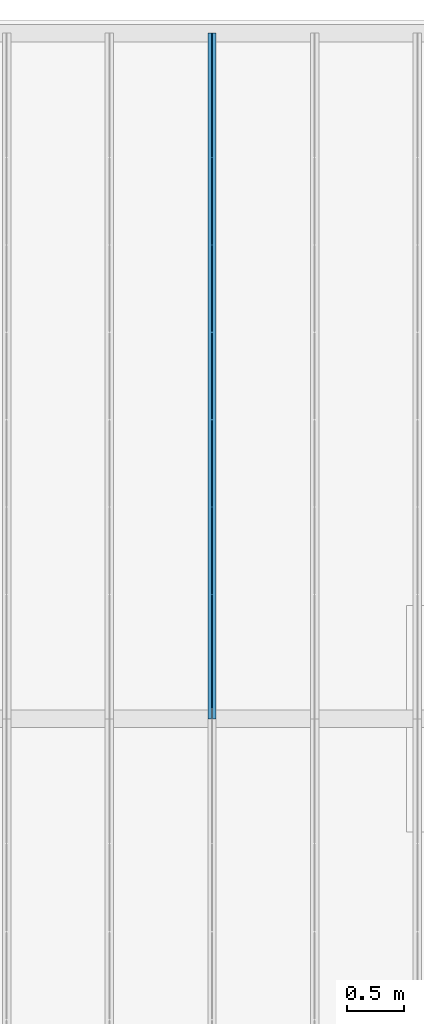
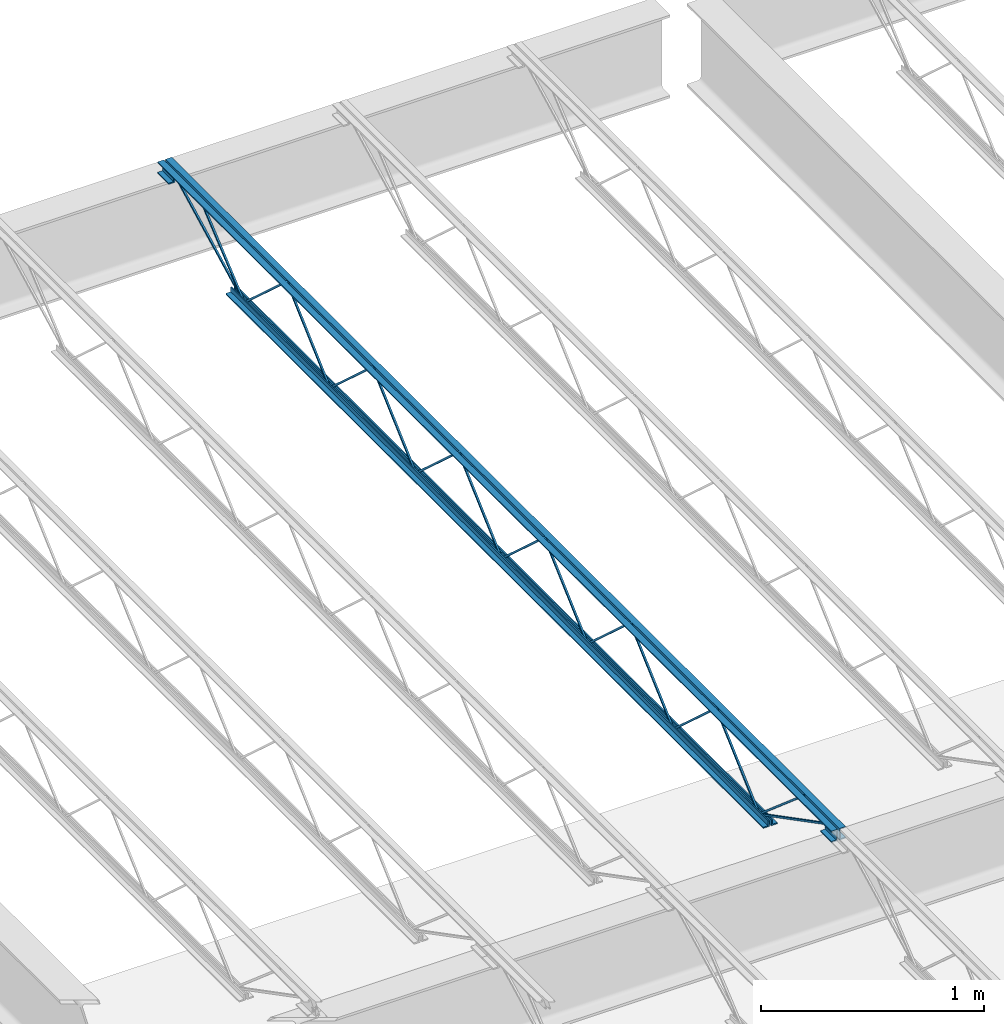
# One storey, part 43 of 75: 1 beam.
"""IFC2X3 building model written with IfcOpenShell, lengths in metres."""

from ifc_helpers import new_model, entity, si_unit, converted_unit, frame, origin, place, context, project, spatial, face_set, surface_model, element, save


model = new_model("IFC2X3")

# Units and contexts
model_context = context("Model", 3, precision=1e-09, world=origin())
plan_context = context("Plan", 3, precision=1e-09, world=origin())
ifc_project = project(units=[si_unit("LENGTHUNIT", "METRE"), si_unit("AREAUNIT", "SQUARE_METRE"), si_unit("VOLUMEUNIT", "CUBIC_METRE"), converted_unit("PLANEANGLEUNIT", "DEGREE", entity("IfcRatioMeasure", 0.01745329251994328), si_unit("PLANEANGLEUNIT", "RADIAN"), dimensions=[0, 0, 0, 0, 0, 0, 0]), si_unit("TIMEUNIT", "SECOND")], contexts=[model_context, plan_context])

# Site, building, storey
site_placement = place(None, origin())
site = spatial("IfcSite", under=ifc_project, at=site_placement, Name="Default", CompositionType="ELEMENT")
building_placement = place(site_placement, origin())
building = spatial("IfcBuilding", under=site, at=building_placement, CompositionType="ELEMENT")
storey_placement = place(building_placement, origin())
storey = spatial("IfcBuildingStorey", under=building, at=storey_placement, Name="First Floor", CompositionType="ELEMENT", Elevation=-3.531500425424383e-13)

# Beam
beam_placement = place(storey_placement, frame((-43.41389285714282, 50.09000000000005, 4.112000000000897), z_axis=(0.0, 0.0, 1.0), x_axis=(-1.0, 0.0, 0.0)))
element("IfcBeam", 1, at=beam_placement, inside=storey, Name="M_K-Series Bar Joist-Rod Web:14K1:14K1", ObjectType="M_K-Series Bar Joist-Rod Web:14K1", context=model_context, shape_type="SurfaceModel", body=[
    surface_model("IfcFaceBasedSurfaceModel", [(-0.03199999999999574, -2.254000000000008, 0.01110000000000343), (-0.04150000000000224, -2.254000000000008, 0.01110000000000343), (-0.04150000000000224, -2.254000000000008, 0.001600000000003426), (-0.03199999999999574, -2.254000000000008, 0.001600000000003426), (-0.04149999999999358, -2.252655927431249, 0.01110000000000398), (-0.03199999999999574, -2.252655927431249, 0.01110000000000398), (-0.04150000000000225, -2.248994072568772, 0.001600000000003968), (-0.04150000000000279, -1.869844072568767, 0.3449000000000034), (-0.0415000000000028, -1.86715592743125, 0.3449000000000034), (-0.04150000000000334, -1.48800592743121, 0.001600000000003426), (-0.04150000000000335, -1.483000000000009, 0.001600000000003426), (-0.04150000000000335, -1.483000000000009, 0.01110000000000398), (-0.04150000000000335, -1.484344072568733, 0.01110000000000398), (-0.04150000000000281, -1.863494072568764, 0.3544000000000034), (-0.04150000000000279, -1.873505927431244, 0.3544000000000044), (-0.03200000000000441, -2.248994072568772, 0.001600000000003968), (-0.03199999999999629, -1.869844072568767, 0.3449000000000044), (-0.0319999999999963, -1.86715592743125, 0.3449000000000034), (-0.03199999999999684, -1.48800592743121, 0.001600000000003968), (-0.03199999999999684, -1.483000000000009, 0.001600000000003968), (-0.03199999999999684, -1.483000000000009, 0.01110000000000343), (-0.03199999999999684, -1.484344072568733, 0.01110000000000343), (-0.0319999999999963, -1.863494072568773, 0.3544000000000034), (-0.03199999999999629, -1.873505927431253, 0.3544000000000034), (-0.03199999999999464, -3.025000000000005, 0.01110000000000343), (-0.04150000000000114, -3.025000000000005, 0.01110000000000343), (-0.04150000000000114, -3.025000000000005, 0.001600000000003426), (-0.03199999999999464, -3.025000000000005, 0.001600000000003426), (-0.04149999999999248, -3.023655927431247, 0.01110000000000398), (-0.03199999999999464, -3.023655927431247, 0.01110000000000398), (-0.04150000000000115, -3.01999407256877, 0.001600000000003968), (-0.04150000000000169, -2.640844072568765, 0.3449000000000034), (-0.04150000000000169, -2.638155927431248, 0.3449000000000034), (-0.04150000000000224, -2.259005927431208, 0.001600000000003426), (-0.04150000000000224, -2.254000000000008, 0.01110000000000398), (-0.04150000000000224, -2.255344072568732, 0.01110000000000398), (-0.0415000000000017, -2.634494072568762, 0.3544000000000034), (-0.04150000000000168, -2.644505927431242, 0.3544000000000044), (-0.03200000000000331, -3.01999407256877, 0.001600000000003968), (-0.03199999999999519, -2.640844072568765, 0.3449000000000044), (-0.03199999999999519, -2.638155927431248, 0.3449000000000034), (-0.03199999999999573, -2.259005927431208, 0.001600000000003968), (-0.03199999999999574, -2.254000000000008, 0.001600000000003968), (-0.03199999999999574, -2.255344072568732, 0.01110000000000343), (-0.0319999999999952, -2.634494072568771, 0.3544000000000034), (-0.03199999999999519, -2.644505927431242, 0.3544000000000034), (-0.03199999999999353, -3.796000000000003, 0.01110000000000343), (-0.04150000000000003, -3.796000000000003, 0.01110000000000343), (-0.04150000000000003, -3.796000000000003, 0.001600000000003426), (-0.03199999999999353, -3.796000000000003, 0.001600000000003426), (-0.04149999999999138, -3.794655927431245, 0.01110000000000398), (-0.03199999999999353, -3.794655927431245, 0.01110000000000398), (-0.04150000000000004, -3.790994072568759, 0.001600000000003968), (-0.04150000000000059, -3.411844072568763, 0.3449000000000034), (-0.04150000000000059, -3.409155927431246, 0.3449000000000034), (-0.04150000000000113, -3.030005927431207, 0.001600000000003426), (-0.04150000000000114, -3.025000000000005, 0.01110000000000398), (-0.04150000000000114, -3.026344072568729, 0.01110000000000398), (-0.0415000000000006, -3.40549407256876, 0.3544000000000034), (-0.04150000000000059, -3.41550592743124, 0.3544000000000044), (-0.03200000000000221, -3.790994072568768, 0.001600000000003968), (-0.03199999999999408, -3.411844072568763, 0.3449000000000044), (-0.03199999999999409, -3.409155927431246, 0.3449000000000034), (-0.03199999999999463, -3.030005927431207, 0.001600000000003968), (-0.03199999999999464, -3.025000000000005, 0.001600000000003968), (-0.03199999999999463, -3.026344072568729, 0.01110000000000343), (-0.03199999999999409, -3.40549407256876, 0.3544000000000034), (-0.03199999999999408, -3.41550592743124, 0.3544000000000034), (-0.03199999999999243, -4.567000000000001, 0.01110000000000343), (-0.04149999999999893, -4.567000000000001, 0.01110000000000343), (-0.04149999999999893, -4.567000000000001, 0.001600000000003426), (-0.03199999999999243, -4.567000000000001, 0.001600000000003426), (-0.04149999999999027, -4.565655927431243, 0.01110000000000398), (-0.03199999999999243, -4.565655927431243, 0.01110000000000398), (-0.04149999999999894, -4.561994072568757, 0.001600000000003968), (-0.04149999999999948, -4.182844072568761, 0.3449000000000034), (-0.04149999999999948, -4.180155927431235, 0.3449000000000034), (-0.04150000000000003, -3.801005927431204, 0.001600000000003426), (-0.04150000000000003, -3.795999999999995, 0.001600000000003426), (-0.04150000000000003, -3.796000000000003, 0.01110000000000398), (-0.04150000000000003, -3.797344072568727, 0.01110000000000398), (-0.04149999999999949, -4.176494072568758, 0.3544000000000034), (-0.04149999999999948, -4.186505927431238, 0.3544000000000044), (-0.0320000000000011, -4.561994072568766, 0.001600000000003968), (-0.03199999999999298, -4.182844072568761, 0.3449000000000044), (-0.03199999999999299, -4.180155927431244, 0.3449000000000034), (-0.03199999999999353, -3.801005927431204, 0.001600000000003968), (-0.03199999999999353, -3.796000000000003, 0.001600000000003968), (-0.03199999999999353, -3.795999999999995, 0.01110000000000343), (-0.03199999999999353, -3.797344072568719, 0.01110000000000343), (-0.03199999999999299, -4.176494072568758, 0.3544000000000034), (-0.03199999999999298, -4.186505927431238, 0.3544000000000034), (-0.03199999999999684, -1.483000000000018, 0.01109999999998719), (-0.04150000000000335, -1.483000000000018, 0.01109999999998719), (-0.04150000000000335, -1.483000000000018, 0.001599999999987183), (-0.03199999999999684, -1.483000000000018, 0.001599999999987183), (-0.04150000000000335, -1.48165592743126, 0.01109999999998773), (-0.03200000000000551, -1.48165592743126, 0.01109999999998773), (-0.04150000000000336, -1.477994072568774, 0.001599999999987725), (-0.0415000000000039, -1.098844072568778, 0.3448999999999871), (-0.0415000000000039, -1.096155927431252, 0.3448999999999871), (-0.04150000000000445, -0.717005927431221, 0.001599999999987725), (-0.04150000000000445, -0.7120000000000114, 0.001599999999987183), (-0.04150000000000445, -0.7120000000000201, 0.01109999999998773), (-0.04150000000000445, -0.713344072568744, 0.01109999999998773), (-0.04150000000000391, -1.092494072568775, 0.3543999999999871), (-0.04150000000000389, -1.102505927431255, 0.3543999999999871), (-0.03200000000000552, -1.477994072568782, 0.001599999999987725), (-0.03200000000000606, -1.098844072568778, 0.3448999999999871), (-0.03200000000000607, -1.09615592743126, 0.3448999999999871), (-0.03200000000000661, -0.717005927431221, 0.001599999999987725), (-0.03200000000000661, -0.7120000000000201, 0.001599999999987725), (-0.03199999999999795, -0.7120000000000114, 0.01109999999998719), (-0.03200000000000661, -0.7133440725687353, 0.01109999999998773), (-0.03200000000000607, -1.092494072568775, 0.3543999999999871), (-0.03200000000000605, -1.102505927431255, 0.3543999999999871), (-0.03199999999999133, -5.33799999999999, 0.01110000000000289), (-0.04149999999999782, -5.33799999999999, 0.01110000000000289), (-0.04149999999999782, -5.33799999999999, 0.001600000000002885), (-0.03199999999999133, -5.33799999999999, 0.001600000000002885), (-0.04149999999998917, -5.336655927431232, 0.01110000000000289), (-0.03199999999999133, -5.336655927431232, 0.01110000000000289), (-0.04149999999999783, -5.332994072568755, 0.001600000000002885), (-0.04149999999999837, -4.95384407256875, 0.3449000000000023), (-0.04149999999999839, -4.951155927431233, 0.3449000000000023), (-0.04149999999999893, -4.572005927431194, 0.001600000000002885), (-0.04149999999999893, -4.566999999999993, 0.001600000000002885), (-0.04149999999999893, -4.566999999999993, 0.01110000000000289), (-0.04149999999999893, -4.568344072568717, 0.01110000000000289), (-0.04149999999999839, -4.947494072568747, 0.3544000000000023), (-0.04149999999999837, -4.957505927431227, 0.3544000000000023), (-0.03199999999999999, -5.332994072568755, 0.001600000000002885), (-0.03199999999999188, -4.95384407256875, 0.3449000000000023), (-0.03199999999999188, -4.951155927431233, 0.3449000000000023), (-0.03199999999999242, -4.572005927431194, 0.001600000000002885), (-0.03199999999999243, -4.566999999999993, 0.001600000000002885), (-0.03199999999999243, -4.566999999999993, 0.01110000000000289), (-0.03199999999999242, -4.568344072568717, 0.01110000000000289), (-0.03199999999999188, -4.947494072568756, 0.3544000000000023), (-0.03199999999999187, -4.957505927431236, 0.3544000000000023), (-0.04150000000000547, 0.0, 0.3559999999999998), (-0.07350000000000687, 0.0, 0.3559999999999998), (-0.07350000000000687, 0.0, 0.349499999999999), (-0.048000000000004, 0.0, 0.349499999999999), (-0.048000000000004, 0.0, 0.3239999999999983), (-0.04150000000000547, 0.0, 0.3239999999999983), (-0.03200000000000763, 0.0, 0.3559999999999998), (-0.03200000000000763, 0.0, 0.3239999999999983), (-0.02550000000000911, 0.0, 0.3239999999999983), (-0.02550000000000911, 0.0, 0.349499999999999), (0.0, 0.0, 0.349499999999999), (0.0, 0.0, 0.3559999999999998), (-0.04149999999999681, -6.049999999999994, 0.3559999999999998), (-0.07349999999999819, -6.049999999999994, 0.3559999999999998), (-0.07349999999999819, -6.049999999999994, 0.349499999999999), (-0.04799999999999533, -6.049999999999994, 0.349499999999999), (-0.04799999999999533, -6.049999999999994, 0.3239999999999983), (-0.04149999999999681, -6.049999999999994, 0.3239999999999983), (-0.03199999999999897, -6.049999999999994, 0.3559999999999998), (-0.03199999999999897, -6.049999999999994, 0.3239999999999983), (-0.02550000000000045, -6.049999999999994, 0.3239999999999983), (-0.02550000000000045, -6.049999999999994, 0.349499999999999), (0.0, -6.049999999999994, 0.349499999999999), (0.0, -6.049999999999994, 0.3559999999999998), (-0.03199999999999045, -5.950000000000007, 0.2924999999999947), (0.0, -5.950000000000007, 0.2924999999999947), (0.0, -5.950000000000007, 0.2989999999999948), (-0.02549999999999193, -5.950000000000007, 0.2989999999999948), (-0.02549999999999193, -5.950000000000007, 0.3239999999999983), (-0.03199999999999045, -5.950000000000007, 0.3239999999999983), (-0.07349999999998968, -5.950000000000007, 0.2924999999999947), (-0.04149999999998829, -5.950000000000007, 0.2924999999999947), (-0.04149999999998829, -5.950000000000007, 0.3239999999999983), (-0.04799999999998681, -5.950000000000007, 0.3239999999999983), (-0.04799999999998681, -5.950000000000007, 0.2989999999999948), (-0.07349999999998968, -5.950000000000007, 0.2989999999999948), (-0.03199999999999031, -6.049999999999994, 0.2924999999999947), (0.0, -6.049999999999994, 0.2924999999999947), (0.0, -6.049999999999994, 0.2989999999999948), (-0.02549999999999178, -6.049999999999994, 0.2989999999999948), (-0.02549999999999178, -6.049999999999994, 0.3239999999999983), (-0.03199999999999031, -6.049999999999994, 0.3239999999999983), (-0.07349999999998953, -6.049999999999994, 0.2924999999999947), (-0.04149999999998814, -6.049999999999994, 0.2924999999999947), (-0.04149999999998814, -6.049999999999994, 0.3239999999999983), (-0.04799999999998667, -6.049999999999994, 0.3239999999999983), (-0.04799999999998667, -6.049999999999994, 0.2989999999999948), (-0.07349999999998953, -6.049999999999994, 0.2989999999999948), (-0.04149999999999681, 0.0, 0.2924999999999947), (-0.04149999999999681, 0.0, 0.3239999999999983), (-0.04799999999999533, 0.0, 0.3239999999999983), (-0.04799999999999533, 0.0, 0.2989999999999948), (-0.07349999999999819, 0.0, 0.2989999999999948), (-0.07349999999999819, 0.0, 0.2924999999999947), (-0.03199999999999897, 0.0, 0.2924999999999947), (0.0, 0.0, 0.2924999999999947), (0.0, 0.0, 0.2989999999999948), (-0.02550000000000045, 0.0, 0.2989999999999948), (-0.02550000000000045, 0.0, 0.3239999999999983), (-0.03199999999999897, 0.0, 0.3239999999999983), (-0.04149999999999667, -0.0999999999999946, 0.2924999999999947), (-0.04149999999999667, -0.0999999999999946, 0.3239999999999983), (-0.04799999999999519, -0.0999999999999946, 0.3239999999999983), (-0.04799999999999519, -0.0999999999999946, 0.2989999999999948), (-0.07349999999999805, -0.0999999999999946, 0.2989999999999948), (-0.07349999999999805, -0.0999999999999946, 0.2924999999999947), (-0.03199999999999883, -0.0999999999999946, 0.2924999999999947), (0.0, -0.0999999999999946, 0.2924999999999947), (0.0, -0.0999999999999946, 0.2989999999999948), (-0.0255000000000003, -0.0999999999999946, 0.2989999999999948), (-0.0255000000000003, -0.0999999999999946, 0.3239999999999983), (-0.03199999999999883, -0.0999999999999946, 0.3239999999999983), (-0.0415000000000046, -0.6119999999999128, 0.0), (-0.0415000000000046, -0.6119999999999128, 0.03199999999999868), (-0.04800000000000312, -0.6119999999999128, 0.03199999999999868), (-0.04800000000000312, -0.6119999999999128, 0.006499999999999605), (-0.07350000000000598, -0.6119999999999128, 0.006499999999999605), (-0.07350000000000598, -0.6119999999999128, 0.0), (-0.03200000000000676, -0.6119999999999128, 0.0), (0.0, -0.6119999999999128, 0.0), (0.0, -0.6119999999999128, 0.006499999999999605), (-0.02550000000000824, -0.6119999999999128, 0.006499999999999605), (-0.02550000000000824, -0.6119999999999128, 0.03199999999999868), (-0.03200000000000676, -0.6119999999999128, 0.03199999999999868), (-0.04149999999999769, -5.437999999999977, 0.0), (-0.04149999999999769, -5.437999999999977, 0.03199999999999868), (-0.04799999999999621, -5.437999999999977, 0.03199999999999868), (-0.04799999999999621, -5.437999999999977, 0.006499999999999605), (-0.07349999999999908, -5.437999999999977, 0.006499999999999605), (-0.07349999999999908, -5.437999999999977, 0.0), (-0.03199999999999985, -5.437999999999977, 0.0), (0.0, -5.437999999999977, 0.0), (0.0, -5.437999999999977, 0.006499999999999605), (-0.02550000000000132, -5.437999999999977, 0.006499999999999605), (-0.02550000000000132, -5.437999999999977, 0.03199999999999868), (-0.03199999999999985, -5.437999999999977, 0.03199999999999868), (-0.03199999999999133, -5.335811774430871, 0.01056594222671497), (-0.04149999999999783, -5.335811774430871, 0.01056594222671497), (-0.04149999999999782, -5.34018822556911, 0.002134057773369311), (-0.03199999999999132, -5.34018822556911, 0.002134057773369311), (-0.03199999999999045, -5.948840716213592, 0.3287499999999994), (-0.03199999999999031, -6.049999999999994, 0.3287499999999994), (-0.03199999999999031, -6.049999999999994, 0.3192499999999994), (-0.03199999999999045, -5.951159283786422, 0.3192499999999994), (-0.04149999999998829, -5.951159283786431, 0.3192499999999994), (-0.04149999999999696, -5.948840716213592, 0.3287499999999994), (-0.04149999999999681, -6.049999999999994, 0.3287499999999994), (-0.04149999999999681, -6.049999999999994, 0.3192499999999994), (-0.03199999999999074, -5.743457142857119, 0.341700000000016), (-0.04149999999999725, -5.743457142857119, 0.341700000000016), (-0.04149999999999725, -5.743457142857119, 0.332200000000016), (-0.03199999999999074, -5.743457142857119, 0.332200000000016), (-0.0414999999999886, -5.729024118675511, 0.341700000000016), (-0.03199999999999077, -5.729024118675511, 0.341700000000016), (-0.04149999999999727, -5.732490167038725, 0.332200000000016), (-0.04149999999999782, -5.341058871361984, 0.002716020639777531), (-0.04149999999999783, -5.334941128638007, 0.009983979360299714), (-0.03199999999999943, -5.732490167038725, 0.332200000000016), (-0.03199999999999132, -5.341058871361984, 0.002716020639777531), (-0.03199999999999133, -5.334941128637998, 0.009983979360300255), (-0.03199999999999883, -0.09781177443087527, 0.3197840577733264), (-0.03199999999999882, -0.1021882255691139, 0.3282159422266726), (-0.04150000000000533, -0.1021882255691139, 0.3282159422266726), (-0.04150000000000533, -0.09781177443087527, 0.3197840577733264), (-0.03199999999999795, -0.7098117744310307, 0.002134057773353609), (-0.03199999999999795, -0.7141882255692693, 0.01056594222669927), (-0.04150000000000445, -0.7141882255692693, 0.01056594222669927), (-0.04150000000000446, -0.7098117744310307, 0.002134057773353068), (-0.03199999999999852, -0.3088922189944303, 0.3460454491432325), (-0.03199999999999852, -0.3150792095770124, 0.3532545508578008), (-0.04150000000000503, -0.3150792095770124, 0.3532545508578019), (-0.04150000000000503, -0.3088922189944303, 0.3460454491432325), (-0.03199999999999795, -0.7089065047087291, 0.002745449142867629), (-0.03199999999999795, -0.715093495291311, 0.009954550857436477), (-0.04150000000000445, -0.715093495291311, 0.009954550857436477), (-0.04150000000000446, -0.7089065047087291, 0.002745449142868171)], [face_set([[[0, 1, 2, 3]], [[1, 4, 5, 0]], [[2, 6, 7, 8, 9, 10, 11, 12, 13, 14, 4, 1]], [[3, 2, 6, 15]], [[0, 3, 15, 16, 17, 18, 19, 20, 21, 22, 23, 5]], [[4, 5, 23, 14]], [[15, 16, 7, 6]], [[14, 13, 22, 23]], [[16, 7, 8, 17]], [[13, 12, 21, 22]], [[17, 8, 9, 18]], [[20, 11, 10, 19]], [[12, 11, 20, 21]], [[18, 9, 10, 19]]]), face_set([[[24, 25, 26, 27]], [[25, 28, 29, 24]], [[26, 30, 31, 32, 33, 2, 34, 35, 36, 37, 28, 25]], [[27, 26, 30, 38]], [[24, 27, 38, 39, 40, 41, 42, 0, 43, 44, 45, 29]], [[28, 29, 45, 37]], [[38, 39, 31, 30]], [[37, 36, 44, 45]], [[39, 31, 32, 40]], [[36, 35, 43, 44]], [[40, 32, 33, 41]], [[0, 34, 2, 42]], [[35, 34, 0, 43]], [[41, 33, 2, 42]]]), face_set([[[46, 47, 48, 49]], [[47, 50, 51, 46]], [[48, 52, 53, 54, 55, 26, 56, 57, 58, 59, 50, 47]], [[49, 48, 52, 60]], [[46, 49, 60, 61, 62, 63, 64, 24, 65, 66, 67, 51]], [[50, 51, 67, 59]], [[60, 61, 53, 52]], [[59, 58, 66, 67]], [[61, 53, 54, 62]], [[58, 57, 65, 66]], [[62, 54, 55, 63]], [[24, 56, 26, 64]], [[57, 56, 24, 65]], [[63, 55, 26, 64]]]), face_set([[[68, 69, 70, 71]], [[69, 72, 73, 68]], [[70, 74, 75, 76, 77, 78, 79, 80, 81, 82, 72, 69]], [[71, 70, 74, 83]], [[68, 71, 83, 84, 85, 86, 87, 88, 89, 90, 91, 73]], [[72, 73, 91, 82]], [[83, 84, 75, 74]], [[82, 81, 90, 91]], [[84, 75, 76, 85]], [[81, 80, 89, 90]], [[85, 76, 77, 86]], [[88, 79, 78, 87]], [[80, 79, 88, 89]], [[86, 77, 78, 87]]]), face_set([[[92, 93, 94, 95]], [[93, 96, 97, 92]], [[94, 98, 99, 100, 101, 102, 103, 104, 105, 106, 96, 93]], [[95, 94, 98, 107]], [[92, 95, 107, 108, 109, 110, 111, 112, 113, 114, 115, 97]], [[96, 97, 115, 106]], [[107, 108, 99, 98]], [[106, 105, 114, 115]], [[108, 99, 100, 109]], [[105, 104, 113, 114]], [[109, 100, 101, 110]], [[112, 103, 102, 111]], [[104, 103, 112, 113]], [[110, 101, 102, 111]]]), face_set([[[116, 117, 118, 119]], [[117, 120, 121, 116]], [[118, 122, 123, 124, 125, 126, 127, 128, 129, 130, 120, 117]], [[119, 118, 122, 131]], [[116, 119, 131, 132, 133, 134, 135, 136, 137, 138, 139, 121]], [[120, 121, 139, 130]], [[131, 132, 123, 122]], [[130, 129, 138, 139]], [[132, 123, 124, 133]], [[129, 128, 137, 138]], [[133, 124, 125, 134]], [[136, 127, 126, 135]], [[128, 127, 136, 137]], [[134, 125, 126, 135]]]), face_set([[[140, 141, 142, 143, 144, 145]], [[146, 147, 148, 149, 150, 151]], [[152, 153, 154, 155, 156, 157]], [[158, 159, 160, 161, 162, 163]], [[145, 140, 152, 157]], [[144, 145, 157, 156]], [[143, 155, 156, 144]], [[142, 143, 155, 154]], [[141, 153, 154, 142]], [[140, 152, 153, 141]], [[151, 163, 158, 146]], [[150, 151, 163, 162]], [[149, 150, 162, 161]], [[148, 149, 161, 160]], [[147, 148, 160, 159]], [[146, 158, 159, 147]]]), face_set([[[164, 165, 166, 167, 168, 169]], [[170, 171, 172, 173, 174, 175]], [[176, 177, 178, 179, 180, 181]], [[182, 183, 184, 185, 186, 187]], [[169, 181, 176, 164]], [[168, 180, 181, 169]], [[167, 168, 180, 179]], [[166, 178, 179, 167]], [[165, 166, 178, 177]], [[164, 165, 177, 176]], [[175, 187, 182, 170]], [[174, 186, 187, 175]], [[173, 185, 186, 174]], [[172, 184, 185, 173]], [[171, 172, 184, 183]], [[170, 171, 183, 182]]]), face_set([[[188, 189, 190, 191, 192, 193]], [[194, 195, 196, 197, 198, 199]], [[200, 201, 202, 203, 204, 205]], [[206, 207, 208, 209, 210, 211]], [[193, 188, 200, 205]], [[192, 204, 205, 193]], [[191, 203, 204, 192]], [[190, 202, 203, 191]], [[189, 201, 202, 190]], [[188, 189, 201, 200]], [[199, 211, 206, 194]], [[198, 210, 211, 199]], [[197, 198, 210, 209]], [[196, 208, 209, 197]], [[195, 196, 208, 207]], [[194, 195, 207, 206]]]), face_set([[[212, 213, 214, 215, 216, 217]], [[218, 219, 220, 221, 222, 223]], [[224, 225, 226, 227, 228, 229]], [[230, 231, 232, 233, 234, 235]], [[217, 212, 224, 229]], [[216, 228, 229, 217]], [[215, 227, 228, 216]], [[214, 226, 227, 215]], [[213, 225, 226, 214]], [[212, 213, 225, 224]], [[223, 235, 230, 218]], [[222, 234, 235, 223]], [[221, 222, 234, 233]], [[220, 232, 233, 221]], [[219, 220, 232, 231]], [[218, 219, 231, 230]]]), face_set([[[236, 237, 238, 239]], [[239, 236, 240, 241, 242, 243]], [[238, 239, 243, 244]], [[237, 245, 246, 247, 244, 238]], [[236, 240, 245, 237]], [[241, 246, 247, 242]], [[244, 243, 242, 247]], [[240, 241, 246, 245]]]), face_set([[[248, 249, 250, 251]], [[249, 252, 253, 248]], [[250, 254, 255, 256, 252, 249]], [[251, 250, 254, 257]], [[248, 251, 257, 258, 259, 253]], [[259, 256, 255, 258]], [[252, 256, 259, 253]], [[257, 254, 255, 258]]]), face_set([[[260, 261, 262, 263]], [[264, 265, 266, 267]], [[263, 267, 264, 260]], [[262, 266, 267, 263]], [[261, 262, 266, 265]], [[260, 261, 265, 264]]]), face_set([[[268, 269, 270, 271]], [[272, 273, 274, 275]], [[271, 275, 272, 268]], [[270, 274, 275, 271]], [[269, 270, 274, 273]], [[268, 269, 273, 272]]])]),
])

save(model, "model.ifc")
